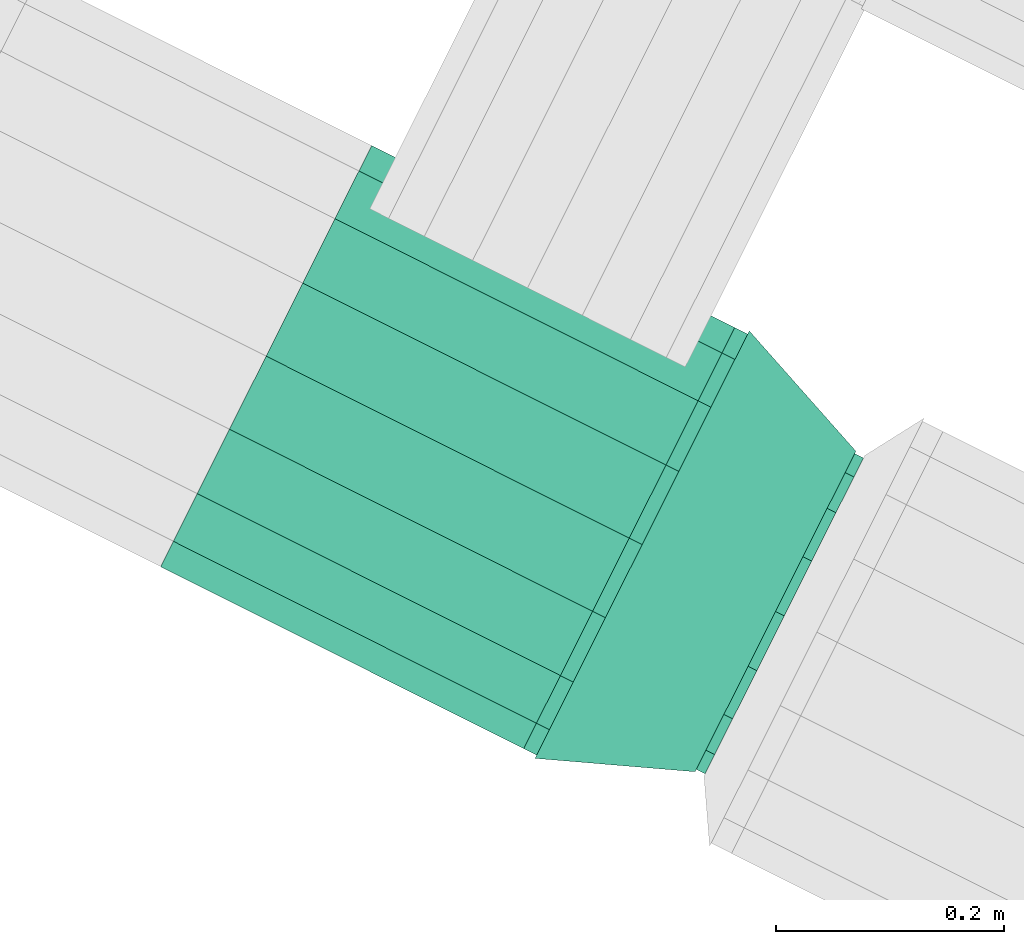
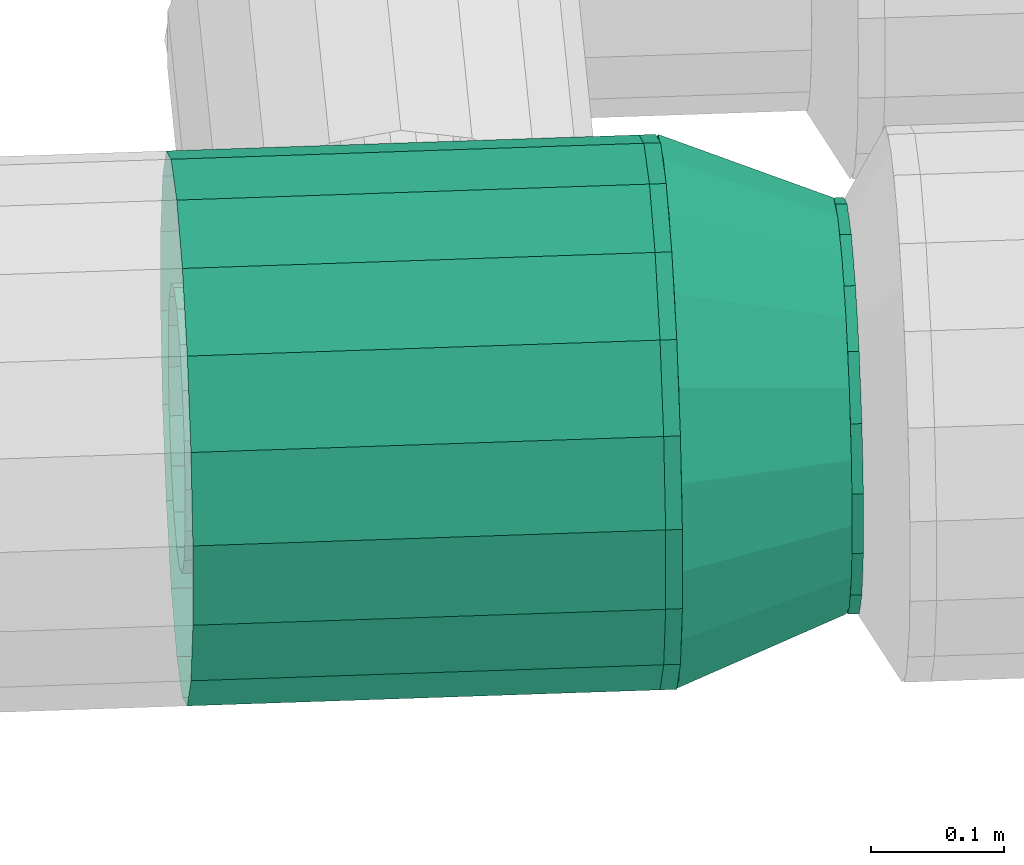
# One storey, part 29 of 152: 2 flow fittings.
"""IFC2X3 building model written with IfcOpenShell, lengths in metres."""

from ifc_helpers import new_model, si_unit, derived_unit, direction, frame, origin, place, context, subcontext, project, spatial, face_set, surface_model, source, transform, mapped, material, type_object, type_shapes, element, save


model = new_model("IFC2X3")

# Units and contexts
model_context = context("Model", 3, precision=5.2338327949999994e-05, world=origin(), true_north=direction((0.0, 1.0)))
body_context = subcontext(model_context, "Body", "Model", "MODEL_VIEW")
ifc_project = project(units=[si_unit("LENGTHUNIT", "METRE"), si_unit("AREAUNIT", "SQUARE_METRE"), si_unit("VOLUMEUNIT", "CUBIC_METRE"), si_unit("MASSUNIT", "GRAM", prefix="KILO"), si_unit("PLANEANGLEUNIT", "RADIAN"), derived_unit("THERMALTRANSMITTANCEUNIT", [(si_unit("MASSUNIT", "GRAM", prefix="KILO"), 1), (si_unit("THERMODYNAMICTEMPERATUREUNIT", "KELVIN"), -1), (si_unit("TIMEUNIT", "SECOND"), -3)])], contexts=[model_context])

# Site, building, storey
site_placement = place(None, frame((0.0, 0.0, 0.0), z_axis=(0.0, 0.0, 1.0), x_axis=(0.8939966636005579, -0.4480736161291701, 0.0)))
site = spatial("IfcSite", under=ifc_project, at=site_placement, Name="Default", CompositionType="ELEMENT")
building_placement = place(site_placement, origin())
building = spatial("IfcBuilding", under=site, at=building_placement, CompositionType="ELEMENT")
storey_placement = place(building_placement, frame((0.0, 0.0, 2.7499999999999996)))
storey = spatial("IfcBuildingStorey", under=building, at=storey_placement, Name="1. Obergeschoss", CompositionType="ELEMENT", Elevation=2.7499999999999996)

# Flow fittings
ifc_material = material(Name="IfcSurfaceStyle #9317")
distribution_element_type_1 = type_object("IfcDistributionElementType", Name="Übergangsstück 265726:Übergangsstück 265726", material=ifc_material)
shared_shape_1 = source(origin(), body_context, "Body", "SurfaceModel", [
    surface_model("IfcFaceBasedSurfaceModel", [(12.865928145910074, 5.856787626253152, 5.57849078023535), (12.865928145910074, 5.837241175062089, 5.581937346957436), (12.857308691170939, 5.837241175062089, 5.581937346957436), (12.857308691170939, 5.856787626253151, 5.57849078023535), (12.865928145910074, 5.8200523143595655, 5.591861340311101), (12.857308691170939, 5.8200523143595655, 5.591861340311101), (12.865928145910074, 5.80729427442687, 5.60706578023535), (12.857308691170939, 5.80729427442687, 5.60706578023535), (12.865928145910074, 5.800505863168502, 5.625716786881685), (12.857308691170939, 5.800505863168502, 5.625716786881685), (12.865928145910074, 5.800505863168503, 5.645564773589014), (12.857308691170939, 5.800505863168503, 5.645564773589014), (12.865928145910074, 5.807294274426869, 5.66421578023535), (12.857308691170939, 5.807294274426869, 5.66421578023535), (12.865928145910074, 5.8200523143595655, 5.679420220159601), (12.857308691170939, 5.8200523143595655, 5.679420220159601), (12.865928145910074, 5.837241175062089, 5.689344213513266), (12.857308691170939, 5.837241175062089, 5.689344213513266), (12.865928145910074, 5.856787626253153, 5.692790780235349), (12.857308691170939, 5.856787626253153, 5.692790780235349), (12.86592814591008, 5.876334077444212, 5.68934421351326), (12.857308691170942, 5.8763340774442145, 5.689344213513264), (12.865928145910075, 5.893522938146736, 5.679420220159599), (12.857308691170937, 5.893522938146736, 5.6794202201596), (12.865928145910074, 5.9062809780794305, 5.66421578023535), (12.857308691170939, 5.9062809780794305, 5.66421578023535), (12.865928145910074, 5.913069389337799, 5.645564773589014), (12.857308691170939, 5.913069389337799, 5.645564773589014), (12.865928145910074, 5.913069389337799, 5.625716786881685), (12.857308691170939, 5.913069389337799, 5.625716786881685), (12.865928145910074, 5.906280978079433, 5.60706578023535), (12.857308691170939, 5.906280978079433, 5.60706578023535), (12.865928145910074, 5.893522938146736, 5.591861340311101), (12.857308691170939, 5.893522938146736, 5.591861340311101), (12.865928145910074, 5.876334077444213, 5.581937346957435), (12.857308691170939, 5.876334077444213, 5.581937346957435), (12.857308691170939, 5.799637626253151, 5.63564078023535), (12.857308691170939, 5.803084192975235, 5.655187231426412), (12.726531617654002, 5.753844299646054, 5.673109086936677), (12.726531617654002, 5.7472376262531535, 5.6356407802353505), (12.857308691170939, 5.813008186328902, 5.672376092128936), (12.726531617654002, 5.7728674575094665, 5.706058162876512), (12.857308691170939, 5.828212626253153, 5.68513413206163), (12.726531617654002, 5.80201262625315, 5.730513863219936), (12.857308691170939, 5.846863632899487, 5.69192254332), (12.726531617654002, 5.837764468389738, 5.743526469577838), (12.857308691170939, 5.866711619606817, 5.691922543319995), (12.726531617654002, 5.875810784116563, 5.743526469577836), (12.857308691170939, 5.885362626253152, 5.68513413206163), (12.726531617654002, 5.9115626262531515, 5.730513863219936), (12.857308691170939, 5.900567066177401, 5.6723760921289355), (12.726531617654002, 5.940707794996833, 5.706058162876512), (12.857308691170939, 5.910491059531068, 5.655187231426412), (12.726531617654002, 5.959730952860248, 5.673109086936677), (12.857308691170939, 5.913937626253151, 5.63564078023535), (12.726531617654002, 5.966337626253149, 5.63564078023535), (12.857308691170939, 5.910491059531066, 5.616094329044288), (12.726531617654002, 5.959730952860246, 5.598172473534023), (12.857308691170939, 5.9005670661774, 5.598905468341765), (12.726531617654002, 5.9407077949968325, 5.565223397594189), (12.857308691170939, 5.885362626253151, 5.58614742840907), (12.726531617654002, 5.911562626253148, 5.540767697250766), (12.857308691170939, 5.866711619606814, 5.579359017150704), (12.726531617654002, 5.8758107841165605, 5.527755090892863), (12.857308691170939, 5.8468636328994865, 5.579359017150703), (12.726531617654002, 5.837764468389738, 5.527755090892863), (12.857308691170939, 5.828212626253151, 5.58614742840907), (12.726531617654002, 5.802012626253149, 5.540767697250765), (12.857308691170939, 5.813008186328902, 5.598905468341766), (12.726531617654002, 5.772867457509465, 5.56522339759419), (12.857308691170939, 5.803084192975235, 5.616094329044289), (12.726531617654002, 5.753844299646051, 5.598172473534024), (12.726531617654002, 5.856787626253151, 5.52609078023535), (12.726531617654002, 5.819319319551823, 5.532697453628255), (12.713928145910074, 5.819319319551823, 5.532697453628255), (12.713928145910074, 5.856787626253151, 5.52609078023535), (12.726531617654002, 5.786370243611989, 5.5517206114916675), (12.713928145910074, 5.786370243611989, 5.5517206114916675), (12.726531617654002, 5.761914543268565, 5.58086578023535), (12.713928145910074, 5.761914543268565, 5.58086578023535), (12.726531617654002, 5.748901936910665, 5.616617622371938), (12.713928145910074, 5.748901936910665, 5.616617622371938), (12.726531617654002, 5.748901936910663, 5.654663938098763), (12.713928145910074, 5.748901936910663, 5.654663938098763), (12.726531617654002, 5.761914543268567, 5.690415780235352), (12.713928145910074, 5.761914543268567, 5.690415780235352), (12.726531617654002, 5.786370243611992, 5.719560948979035), (12.713928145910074, 5.786370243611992, 5.719560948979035), (12.726531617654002, 5.819319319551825, 5.738584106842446), (12.713928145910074, 5.819319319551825, 5.738584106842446), (12.726531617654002, 5.856787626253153, 5.74519078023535), (12.713928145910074, 5.856787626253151, 5.74519078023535), (12.726531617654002, 5.894255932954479, 5.7385841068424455), (12.713928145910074, 5.894255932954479, 5.7385841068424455), (12.726531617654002, 5.927205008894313, 5.7195609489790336), (12.713928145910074, 5.927205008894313, 5.7195609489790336), (12.726531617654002, 5.951660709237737, 5.690415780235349), (12.713928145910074, 5.951660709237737, 5.690415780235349), (12.726531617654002, 5.964673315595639, 5.6546639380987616), (12.713928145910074, 5.964673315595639, 5.6546639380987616), (12.726531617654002, 5.96467331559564, 5.616617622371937), (12.713928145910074, 5.96467331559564, 5.616617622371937), (12.726531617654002, 5.951660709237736, 5.58086578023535), (12.713928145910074, 5.951660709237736, 5.58086578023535), (12.726531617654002, 5.927205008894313, 5.551720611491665), (12.713928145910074, 5.927205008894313, 5.551720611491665), (12.726531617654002, 5.894255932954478, 5.532697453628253), (12.713928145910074, 5.894255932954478, 5.532697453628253), (12.865928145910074, 5.856787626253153, 5.478490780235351), (12.865928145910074, 5.803039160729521, 5.487968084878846), (12.857308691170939, 5.803039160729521, 5.487968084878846), (12.857308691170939, 5.856787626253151, 5.478490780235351), (12.865928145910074, 5.7557735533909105, 5.5152568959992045), (12.857308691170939, 5.7557735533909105, 5.5152568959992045), (12.865928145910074, 5.720691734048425, 5.557065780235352), (12.857308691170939, 5.720691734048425, 5.557065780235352), (12.865928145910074, 5.702025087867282, 5.608351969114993), (12.857308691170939, 5.702025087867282, 5.608351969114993), (12.865928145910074, 5.702025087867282, 5.662929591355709), (12.857308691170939, 5.702025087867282, 5.662929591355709), (12.865928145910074, 5.720691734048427, 5.71421578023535), (12.857308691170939, 5.720691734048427, 5.71421578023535), (12.865928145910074, 5.755773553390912, 5.756024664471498), (12.857308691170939, 5.755773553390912, 5.756024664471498), (12.865928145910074, 5.803039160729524, 5.783313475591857), (12.857308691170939, 5.803039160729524, 5.783313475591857), (12.865928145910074, 5.856787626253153, 5.79279078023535), (12.857308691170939, 5.856787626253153, 5.79279078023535), (12.865928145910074, 5.910536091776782, 5.783313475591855), (12.857308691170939, 5.910536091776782, 5.783313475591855), (12.865928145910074, 5.957801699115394, 5.756024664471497), (12.857308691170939, 5.957801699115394, 5.756024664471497), (12.865928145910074, 5.9928835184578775, 5.7142157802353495), (12.857308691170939, 5.9928835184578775, 5.7142157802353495), (12.865928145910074, 6.0115501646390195, 5.662929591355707), (12.857308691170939, 6.0115501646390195, 5.662929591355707), (12.865928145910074, 6.011550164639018, 5.608351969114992), (12.857308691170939, 6.011550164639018, 5.608351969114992), (12.865928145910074, 5.992883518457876, 5.557065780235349), (12.857308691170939, 5.992883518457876, 5.557065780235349), (12.865928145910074, 5.957801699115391, 5.515256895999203), (12.857308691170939, 5.957801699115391, 5.515256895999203), (12.865928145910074, 5.910536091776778, 5.487968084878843), (12.857308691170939, 5.910536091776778, 5.487968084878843), (12.857308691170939, 5.6996376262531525, 5.635640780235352), (12.857308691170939, 5.709114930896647, 5.689389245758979), (12.726531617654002, 5.659875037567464, 5.707311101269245), (12.726531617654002, 5.6472376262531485, 5.6356407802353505), (12.857308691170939, 5.736403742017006, 5.7366548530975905), (12.726531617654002, 5.6962630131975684, 5.770336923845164), (12.857308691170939, 5.778212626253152, 5.771736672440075), (12.726531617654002, 5.752012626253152, 5.817116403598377), (12.857308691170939, 5.829498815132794, 5.79040331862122), (12.726531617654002, 5.820399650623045, 5.842007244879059), (12.857308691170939, 5.884076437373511, 5.79040331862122), (12.726531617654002, 5.893175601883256, 5.842007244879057), (12.857308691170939, 5.935362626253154, 5.771736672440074), (12.726531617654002, 5.961562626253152, 5.817116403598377), (12.857308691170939, 5.977171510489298, 5.736654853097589), (12.726531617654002, 6.017312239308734, 5.770336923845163), (12.857308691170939, 6.004460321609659, 5.689389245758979), (12.726531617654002, 6.053700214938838, 5.707311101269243), (12.857308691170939, 6.013937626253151, 5.63564078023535), (12.726531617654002, 6.066337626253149, 5.635640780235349), (12.857308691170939, 6.004460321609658, 5.5818923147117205), (12.726531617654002, 6.053700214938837, 5.563970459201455), (12.857308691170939, 5.977171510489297, 5.534626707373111), (12.726531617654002, 6.01731223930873, 5.500944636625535), (12.857308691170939, 5.935362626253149, 5.499544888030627), (12.726531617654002, 5.961562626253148, 5.45416515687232), (12.857308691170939, 5.884076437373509, 5.4808782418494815), (12.726531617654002, 5.893175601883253, 5.429274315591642), (12.857308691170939, 5.829498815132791, 5.480878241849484), (12.726531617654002, 5.820399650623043, 5.429274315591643), (12.857308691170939, 5.778212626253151, 5.499544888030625), (12.726531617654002, 5.752012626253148, 5.454165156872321), (12.857308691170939, 5.736403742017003, 5.5346267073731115), (12.726531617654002, 5.696263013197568, 5.500944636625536), (12.857308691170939, 5.7091149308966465, 5.581892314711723), (12.726531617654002, 5.659875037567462, 5.563970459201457), (12.726531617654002, 5.85678762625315, 5.426090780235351), (12.726531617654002, 5.785117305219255, 5.438728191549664), (12.713928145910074, 5.785117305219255, 5.438728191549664), (12.713928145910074, 5.85678762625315, 5.426090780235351), (12.726531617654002, 5.722091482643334, 5.4751161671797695), (12.713928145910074, 5.722091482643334, 5.4751161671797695), (12.726531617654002, 5.675312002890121, 5.530865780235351), (12.713928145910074, 5.675312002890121, 5.530865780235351), (12.726531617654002, 5.650421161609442, 5.599252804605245), (12.713928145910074, 5.650421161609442, 5.599252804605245), (12.726531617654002, 5.650421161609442, 5.6720287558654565), (12.713928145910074, 5.650421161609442, 5.6720287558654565), (12.726531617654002, 5.675312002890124, 5.740415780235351), (12.713928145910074, 5.675312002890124, 5.740415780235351), (12.726531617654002, 5.7220914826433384, 5.7961653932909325), (12.713928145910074, 5.7220914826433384, 5.7961653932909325), (12.726531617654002, 5.78511730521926, 5.832553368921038), (12.713928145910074, 5.78511730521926, 5.832553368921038), (12.726531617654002, 5.856787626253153, 5.84519078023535), (12.713928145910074, 5.85678762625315, 5.845190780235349), (12.726531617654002, 5.928457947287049, 5.832553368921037), (12.713928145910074, 5.928457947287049, 5.832553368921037), (12.726531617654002, 5.991483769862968, 5.796165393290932), (12.713928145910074, 5.991483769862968, 5.796165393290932), (12.726531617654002, 6.038263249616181, 5.74041578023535), (12.713928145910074, 6.038263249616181, 5.74041578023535), (12.726531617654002, 6.06315409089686, 5.672028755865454), (12.713928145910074, 6.06315409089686, 5.672028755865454), (12.726531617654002, 6.063154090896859, 5.5992528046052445), (12.713928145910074, 6.063154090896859, 5.5992528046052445), (12.726531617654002, 6.03826324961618, 5.530865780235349), (12.713928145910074, 6.03826324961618, 5.530865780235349), (12.726531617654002, 5.991483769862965, 5.475116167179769), (12.713928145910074, 5.991483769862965, 5.475116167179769), (12.726531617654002, 5.928457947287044, 5.438728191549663), (12.713928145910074, 5.928457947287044, 5.438728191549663)], [face_set([[[0, 1, 2, 3]], [[1, 4, 5, 2]], [[4, 6, 7, 5]], [[6, 8, 9, 7]], [[8, 10, 11, 9]], [[10, 12, 13, 11]], [[12, 14, 15, 13]], [[14, 16, 17, 15]], [[16, 18, 19, 17]], [[18, 20, 21, 19]], [[20, 22, 23, 21]], [[22, 24, 25, 23]], [[24, 26, 27, 25]], [[26, 28, 29, 27]], [[28, 30, 31, 29]], [[30, 32, 33, 31]], [[32, 34, 35, 33]], [[34, 0, 3, 35]], [[36, 37, 38, 39]], [[37, 40, 41, 38]], [[40, 42, 43, 41]], [[42, 44, 45, 43]], [[44, 46, 47, 45]], [[46, 48, 49, 47]], [[48, 50, 51, 49]], [[50, 52, 53, 51]], [[52, 54, 55, 53]], [[54, 56, 57, 55]], [[56, 58, 59, 57]], [[58, 60, 61, 59]], [[60, 62, 63, 61]], [[62, 64, 65, 63]], [[64, 66, 67, 65]], [[66, 68, 69, 67]], [[68, 70, 71, 69]], [[70, 36, 39, 71]], [[72, 73, 74, 75]], [[73, 76, 77, 74]], [[76, 78, 79, 77]], [[78, 80, 81, 79]], [[80, 82, 83, 81]], [[82, 84, 85, 83]], [[84, 86, 87, 85]], [[86, 88, 89, 87]], [[88, 90, 91, 89]], [[90, 92, 93, 91]], [[92, 94, 95, 93]], [[94, 96, 97, 95]], [[96, 98, 99, 97]], [[98, 100, 101, 99]], [[100, 102, 103, 101]], [[102, 104, 105, 103]], [[104, 106, 107, 105]], [[106, 72, 75, 107]], [[108, 109, 110, 111]], [[109, 112, 113, 110]], [[112, 114, 115, 113]], [[114, 116, 117, 115]], [[116, 118, 119, 117]], [[118, 120, 121, 119]], [[120, 122, 123, 121]], [[122, 124, 125, 123]], [[124, 126, 127, 125]], [[126, 128, 129, 127]], [[128, 130, 131, 129]], [[130, 132, 133, 131]], [[132, 134, 135, 133]], [[134, 136, 137, 135]], [[136, 138, 139, 137]], [[138, 140, 141, 139]], [[140, 142, 143, 141]], [[142, 108, 111, 143]], [[144, 145, 146, 147]], [[145, 148, 149, 146]], [[148, 150, 151, 149]], [[150, 152, 153, 151]], [[152, 154, 155, 153]], [[154, 156, 157, 155]], [[156, 158, 159, 157]], [[158, 160, 161, 159]], [[160, 162, 163, 161]], [[162, 164, 165, 163]], [[164, 166, 167, 165]], [[166, 168, 169, 167]], [[168, 170, 171, 169]], [[170, 172, 173, 171]], [[172, 174, 175, 173]], [[174, 176, 177, 175]], [[176, 178, 179, 177]], [[178, 144, 147, 179]], [[180, 181, 182, 183]], [[181, 184, 185, 182]], [[184, 186, 187, 185]], [[186, 188, 189, 187]], [[188, 190, 191, 189]], [[190, 192, 193, 191]], [[192, 194, 195, 193]], [[194, 196, 197, 195]], [[196, 198, 199, 197]], [[198, 200, 201, 199]], [[200, 202, 203, 201]], [[202, 204, 205, 203]], [[204, 206, 207, 205]], [[206, 208, 209, 207]], [[208, 210, 211, 209]], [[210, 212, 213, 211]], [[212, 214, 215, 213]], [[214, 180, 183, 215]]])]),
])
type_shapes(distribution_element_type_1, [shared_shape_1])
flow_fitting_1_placement = place(storey_placement, frame((0.0, 0.0, -2.7499999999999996)))
element("IfcFlowFitting", 1, at=flow_fitting_1_placement, inside=storey, type_object=distribution_element_type_1, material=ifc_material, Name="Übergangsstück", ObjectType="Übergangsstück", context=body_context, shape_type="MappedRepresentation", body=[
    mapped(shared_shape_1, transform((0.0, 0.0, 0.0), scale=1.0)),
])
distribution_element_type_2 = type_object("IfcDistributionElementType", Name="Abzweigstück 266716:Abzweigstück 266716", material=ifc_material)
shared_shape_2 = source(origin(), body_context, "Body", "SurfaceModel", [
    surface_model("IfcFaceBasedSurfaceModel", [(12.713928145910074, 5.856787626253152, 5.52609078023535), (12.713928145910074, 5.819319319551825, 5.532697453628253), (12.357928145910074, 5.819319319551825, 5.532697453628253), (12.357928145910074, 5.856787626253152, 5.52609078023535), (12.713928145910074, 5.786370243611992, 5.5517206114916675), (12.357928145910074, 5.786370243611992, 5.5517206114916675), (12.713928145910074, 5.761914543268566, 5.58086578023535), (12.357928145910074, 5.761914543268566, 5.58086578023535), (12.713928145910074, 5.748901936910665, 5.616617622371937), (12.357928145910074, 5.748901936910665, 5.616617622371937), (12.713928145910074, 5.748901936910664, 5.654663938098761), (12.357928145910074, 5.748901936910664, 5.654663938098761), (12.713928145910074, 5.761914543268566, 5.690415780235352), (12.357928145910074, 5.761914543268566, 5.690415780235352), (12.713928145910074, 5.786370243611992, 5.719560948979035), (12.357928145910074, 5.786370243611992, 5.719560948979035), (12.713928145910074, 5.819319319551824, 5.7385841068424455), (12.357928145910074, 5.819319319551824, 5.7385841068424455), (12.713928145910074, 5.856787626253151, 5.745190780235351), (12.357928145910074, 5.856787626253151, 5.745190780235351), (12.713928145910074, 5.8942559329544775, 5.7385841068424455), (12.357928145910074, 5.8942559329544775, 5.7385841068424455), (12.713928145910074, 5.927205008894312, 5.719560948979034), (12.357928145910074, 5.927205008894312, 5.719560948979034), (12.713928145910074, 5.951660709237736, 5.690415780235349), (12.357928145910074, 5.951660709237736, 5.690415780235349), (12.713928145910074, 5.964673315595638, 5.654663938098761), (12.357928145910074, 5.964673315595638, 5.654663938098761), (12.713928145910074, 5.964673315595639, 5.616617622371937), (12.357928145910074, 5.964673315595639, 5.616617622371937), (12.713928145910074, 5.951660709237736, 5.580865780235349), (12.357928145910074, 5.951660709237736, 5.580865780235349), (12.713928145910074, 5.927205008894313, 5.551720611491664), (12.357928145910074, 5.927205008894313, 5.551720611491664), (12.713928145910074, 5.894255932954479, 5.532697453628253), (12.357928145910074, 5.894255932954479, 5.532697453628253), (12.713928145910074, 5.856787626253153, 5.4260907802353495), (12.713928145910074, 5.785117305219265, 5.438728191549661), (12.357928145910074, 5.785117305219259, 5.438728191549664), (12.357928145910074, 5.856787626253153, 5.426090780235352), (12.713928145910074, 5.7220914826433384, 5.475116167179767), (12.357928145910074, 5.7220914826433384, 5.475116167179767), (12.713928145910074, 5.675312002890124, 5.530865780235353), (12.357928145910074, 5.675312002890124, 5.530865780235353), (12.713928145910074, 5.650421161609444, 5.599252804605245), (12.357928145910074, 5.650421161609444, 5.599252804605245), (12.713928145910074, 5.650421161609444, 5.6720287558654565), (12.357928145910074, 5.650421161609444, 5.6720287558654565), (12.713928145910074, 5.675312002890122, 5.74041578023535), (12.357928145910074, 5.675312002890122, 5.74041578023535), (12.713928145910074, 5.722091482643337, 5.796165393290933), (12.357928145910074, 5.722091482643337, 5.796165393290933), (12.713928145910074, 5.7851173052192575, 5.832553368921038), (12.357928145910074, 5.7851173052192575, 5.832553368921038), (12.713928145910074, 5.856787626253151, 5.845190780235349), (12.357928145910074, 5.856787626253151, 5.845190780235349), (12.713928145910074, 5.928457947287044, 5.832553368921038), (12.357928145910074, 5.928457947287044, 5.832553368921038), (12.713928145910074, 5.991483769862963, 5.7961653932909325), (12.357928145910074, 5.991483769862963, 5.7961653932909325), (12.713928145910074, 6.03826324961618, 5.740415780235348), (12.357928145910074, 6.03826324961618, 5.740415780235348), (12.713928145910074, 6.06315409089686, 5.672028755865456), (12.357928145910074, 6.06315409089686, 5.672028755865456), (12.713928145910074, 6.06315409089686, 5.5992528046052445), (12.357928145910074, 6.06315409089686, 5.5992528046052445), (12.713928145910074, 6.038263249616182, 5.53086578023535), (12.357928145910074, 6.038263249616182, 5.53086578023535), (12.713928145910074, 5.991483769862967, 5.475116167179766), (12.357928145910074, 5.991483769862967, 5.475116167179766), (12.713928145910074, 5.928457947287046, 5.438728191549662), (12.357928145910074, 5.928457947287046, 5.438728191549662), (12.478778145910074, 5.966337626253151, 5.63564078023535), (12.48222471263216, 5.964579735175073, 5.655187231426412), (12.482224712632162, 6.01278762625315, 5.655187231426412), (12.478778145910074, 6.012787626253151, 5.63564078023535), (12.492148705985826, 5.9599947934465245, 5.672376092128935), (12.492148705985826, 6.012787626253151, 5.6723760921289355), (12.507353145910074, 5.95451996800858, 5.685134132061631), (12.507353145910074, 6.012787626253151, 5.685134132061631), (12.526004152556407, 5.9507746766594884, 5.691922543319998), (12.526004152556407, 6.012787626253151, 5.691922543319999), (12.545852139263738, 5.9507746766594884, 5.691922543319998), (12.545852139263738, 6.012787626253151, 5.69192254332), (12.564503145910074, 5.95451996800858, 5.685134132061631), (12.564503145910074, 6.012787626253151, 5.685134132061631), (12.579707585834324, 5.9599947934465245, 5.6723760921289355), (12.579707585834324, 6.012787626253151, 5.6723760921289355), (12.589631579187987, 5.964579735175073, 5.655187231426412), (12.589631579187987, 6.01278762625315, 5.655187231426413), (12.59307814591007, 5.966337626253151, 5.63564078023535), (12.593078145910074, 6.012787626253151, 5.63564078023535), (12.589631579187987, 5.9645797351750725, 5.616094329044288), (12.589631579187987, 6.012787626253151, 5.616094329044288), (12.579707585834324, 5.9599947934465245, 5.598905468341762), (12.579707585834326, 6.012787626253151, 5.598905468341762), (12.56450314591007, 5.95451996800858, 5.58614742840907), (12.56450314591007, 6.012787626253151, 5.58614742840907), (12.545852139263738, 5.95077467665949, 5.579359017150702), (12.545852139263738, 6.012787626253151, 5.579359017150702), (12.526004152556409, 5.95077467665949, 5.579359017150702), (12.526004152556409, 6.012787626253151, 5.579359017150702), (12.507353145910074, 5.95451996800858, 5.58614742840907), (12.507353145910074, 6.012787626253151, 5.586147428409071), (12.492148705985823, 5.9599947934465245, 5.598905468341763), (12.492148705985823, 6.012787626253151, 5.598905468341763), (12.48222471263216, 5.9645797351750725, 5.616094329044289), (12.48222471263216, 6.012787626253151, 5.616094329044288)], [face_set([[[0, 1, 2, 3]], [[1, 4, 5, 2]], [[4, 6, 7, 5]], [[6, 8, 9, 7]], [[8, 10, 11, 9]], [[10, 12, 13, 11]], [[12, 14, 15, 13]], [[14, 16, 17, 15]], [[16, 18, 19, 17]], [[18, 20, 21, 19]], [[20, 22, 23, 21]], [[22, 24, 25, 23]], [[24, 26, 27, 25]], [[26, 28, 29, 27]], [[28, 30, 31, 29]], [[30, 32, 33, 31]], [[32, 34, 35, 33]], [[34, 0, 3, 35]], [[36, 37, 38, 39]], [[37, 40, 41, 38]], [[40, 42, 43, 41]], [[42, 44, 45, 43]], [[44, 46, 47, 45]], [[46, 48, 49, 47]], [[48, 50, 51, 49]], [[50, 52, 53, 51]], [[52, 54, 55, 53]], [[54, 56, 57, 55]], [[56, 58, 59, 57]], [[58, 60, 61, 59]], [[60, 62, 63, 61]], [[62, 64, 65, 63]], [[64, 66, 67, 65]], [[66, 68, 69, 67]], [[68, 70, 71, 69]], [[70, 36, 39, 71]], [[72, 73, 74, 75]], [[73, 76, 77, 74]], [[76, 78, 79, 77]], [[78, 80, 81, 79]], [[80, 82, 83, 81]], [[82, 84, 85, 83]], [[84, 86, 87, 85]], [[86, 88, 89, 87]], [[88, 90, 91, 89]], [[90, 92, 93, 91]], [[92, 94, 95, 93]], [[94, 96, 97, 95]], [[96, 98, 99, 97]], [[98, 100, 101, 99]], [[100, 102, 103, 101]], [[102, 104, 105, 103]], [[104, 106, 107, 105]], [[106, 72, 75, 107]]])]),
])
type_shapes(distribution_element_type_2, [shared_shape_2])
flow_fitting_2_placement = place(storey_placement, frame((0.0, 0.0, -2.7499999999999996)))
element("IfcFlowFitting", 2, at=flow_fitting_2_placement, inside=storey, type_object=distribution_element_type_2, material=ifc_material, Name="Abzweigstück", ObjectType="Abzweigstück", context=body_context, shape_type="MappedRepresentation", body=[
    mapped(shared_shape_2, transform((0.0, 0.0, 0.0), scale=1.0)),
])

save(model, "model.ifc")
